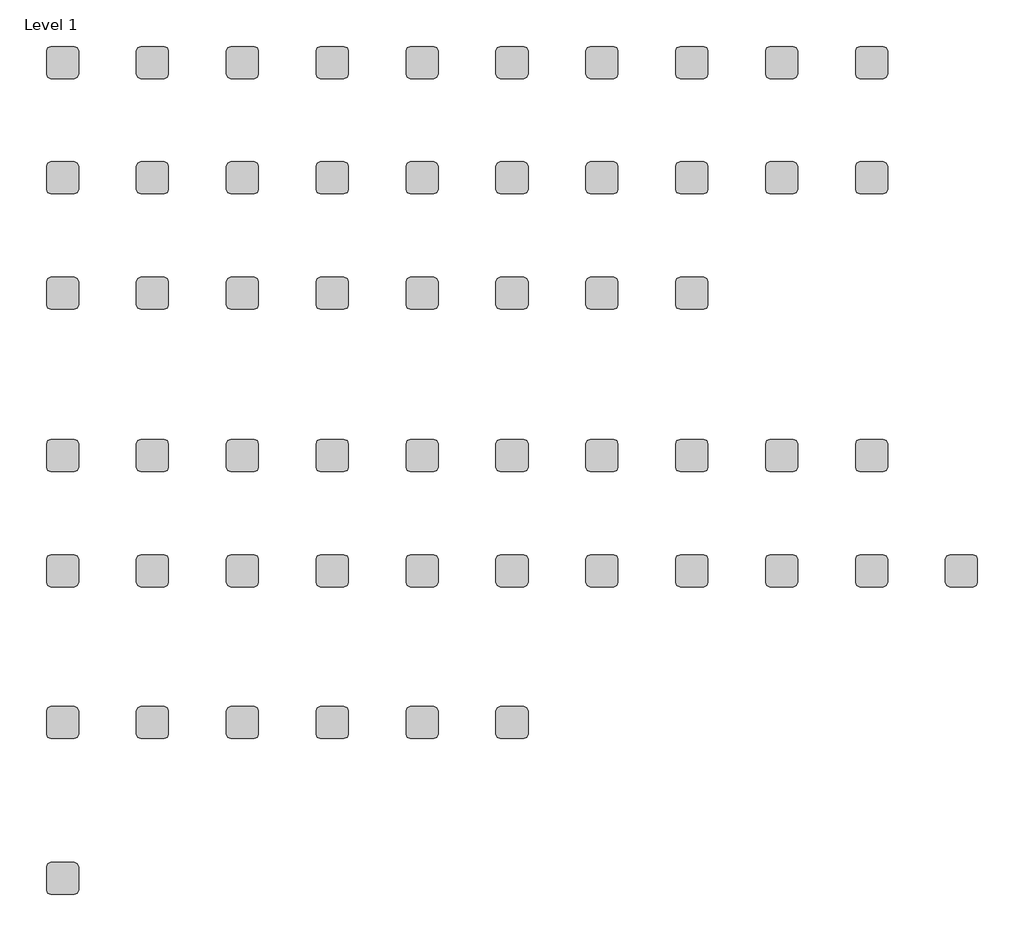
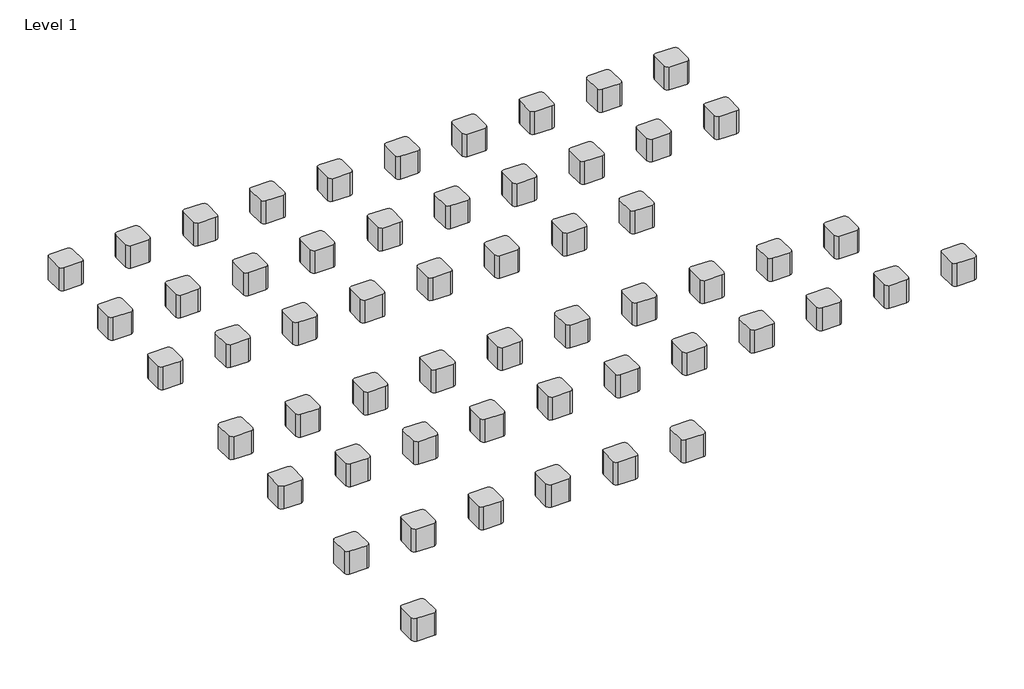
# One storey: 56 proxies.
"""IFC4 building model written with IfcOpenShell, lengths in millimetres."""

import ifcopenshell
import ifcopenshell.guid

model = None  # the IFC model being written
_history = None  # IfcOwnerHistory: only IFC2X3 demands one
_inside = {}  # id of a spatial element -> (the spatial element, [elements in it])
_under = {}  # id of a project, library or spatial element -> (it, [spatial elements below it])
_declared = {}  # id of a project -> (the project, [libraries it declares])
_typed = {}  # id of a type object -> (the type object, [elements of that type])
_made_of = {}  # id of a material, layer set ... -> (it, [elements and type objects made of it])


def new_model(schema):
    """Start an empty IFC model of exactly this schema.

    Asked for "IFC4X3", IfcOpenShell would pick the latest addendum, in which some entities
    have other attributes; the version numbers below select the first issue.
    IFC2X3 requires an IfcOwnerHistory on every rooted entity: one is made here for all.
    """
    global model, _history
    if schema == "IFC4X3":
        model = ifcopenshell.file(schema_version=(4, 3, 0, 0))
    else:
        model = ifcopenshell.file(schema=schema)
    _inside.clear()
    _under.clear()
    _declared.clear()
    _typed.clear()
    _made_of.clear()
    _history = None
    if model.schema == "IFC2X3":
        org = make("IfcOrganization", Name="unknown")
        user = make(
            "IfcPersonAndOrganization",
            ThePerson=make("IfcPerson", FamilyName="unknown"),
            TheOrganization=org,
        )
        app = make(
            "IfcApplication",
            ApplicationDeveloper=org,
            Version="unknown",
            ApplicationFullName="unknown",
            ApplicationIdentifier="unknown",
        )
        _history = make(
            "IfcOwnerHistory",
            OwningUser=user,
            OwningApplication=app,
            ChangeAction="ADDED",
            CreationDate=0,
        )
    return model


def make(cls, **values):
    """One entity of the class cls with the attributes given. An attribute that is None is left unset."""
    return model.create_entity(
        cls, **{name: value for name, value in values.items() if value is not None}
    )


def rooted(cls, **values):
    """An entity with a GlobalId (a new one), such as an element, a storey or a relation."""
    return make(cls, GlobalId=ifcopenshell.guid.new(), OwnerHistory=_history, **values)


def si_unit(unit_type, name, prefix=None):
    """IfcSIUnit, for example si_unit("LENGTHUNIT", "METRE", prefix="MILLI")."""
    return make("IfcSIUnit", UnitType=unit_type, Prefix=prefix, Name=name)


def assignment(units):
    """IfcUnitAssignment: the units of a project."""
    return None if units is None else make("IfcUnitAssignment", Units=units)


def point(xyz):
    """IfcCartesianPoint."""
    return None if xyz is None else make("IfcCartesianPoint", Coordinates=xyz)


def direction(xyz):
    """IfcDirection."""
    return None if xyz is None else make("IfcDirection", DirectionRatios=xyz)


def frame(location, z_axis=None, x_axis=None):
    """IfcAxis2Placement3D, a coordinate frame: its origin and axes. An axis left out is left unset."""
    return make(
        "IfcAxis2Placement3D",
        Location=point(location),
        Axis=direction(z_axis),
        RefDirection=direction(x_axis),
    )


def frame_2d(location, x_axis=None):
    """IfcAxis2Placement2D, a coordinate frame in the plane: its origin and x axis."""
    return make(
        "IfcAxis2Placement2D", Location=point(location), RefDirection=direction(x_axis)
    )


def origin():
    """The frame at (0, 0, 0) with its axes left unset."""
    return frame((0.0, 0.0, 0.0))


def origin_with_axes():
    """The frame at (0, 0, 0) with the z axis (0, 0, 1) and the x axis (1, 0, 0) written out."""
    return frame((0.0, 0.0, 0.0), z_axis=(0.0, 0.0, 1.0), x_axis=(1.0, 0.0, 0.0))


def place(relative_to, where):
    """IfcLocalPlacement: puts the frame where relative to a parent placement (None: the world)."""
    return make(
        "IfcLocalPlacement", PlacementRelTo=relative_to, RelativePlacement=where
    )


def context(
    kind, dimensions, precision=None, world=None, true_north=None, identifier=None
):
    """IfcGeometricRepresentationContext, for example the 3D "Model" context."""
    return make(
        "IfcGeometricRepresentationContext",
        ContextIdentifier=identifier,
        ContextType=kind,
        CoordinateSpaceDimension=dimensions,
        Precision=precision,
        WorldCoordinateSystem=world,
        TrueNorth=true_north,
    )


def project(units=None, contexts=None):
    """IfcProject with its units and contexts."""
    return rooted(
        "IfcProject",
        Name="project",
        RepresentationContexts=contexts,
        UnitsInContext=assignment(units),
    )


def spatial(cls, under=None, at=None, **own):
    """A site, building, storey or space (cls), placed at a placement, below another one or the project."""
    s = rooted(cls, ObjectPlacement=at, **own)
    if under is not None:
        _under.setdefault(under.id(), (under, []))[1].append(s)
    return s


def polyline(points):
    """IfcPolyline through the points."""
    return make("IfcPolyline", Points=[point(p) for p in points])


def circle_curve(where, radius):
    """IfcCircle in the frame where."""
    return make("IfcCircle", Position=where, Radius=radius)


def trimmed(basis, trim1, trim2, sense, master):
    """IfcTrimmedCurve: the piece of a basis curve between two trims."""
    return make(
        "IfcTrimmedCurve",
        BasisCurve=basis,
        Trim1=trim1,
        Trim2=trim2,
        SenseAgreement=sense,
        MasterRepresentation=master,
    )


def segment(curve, same_sense, transition):
    """IfcCompositeCurveSegment."""
    return make(
        "IfcCompositeCurveSegment",
        Transition=transition,
        SameSense=same_sense,
        ParentCurve=curve,
    )


def composite_curve(segments, self_intersect=None):
    """IfcCompositeCurve: segments joined end to end."""
    return make("IfcCompositeCurve", Segments=segments, SelfIntersect=self_intersect)


def outline(outer, holes=None, kind="AREA"):
    """IfcArbitraryClosedProfileDef: a profile drawn as a closed curve; with holes, ...WithVoids."""
    if holes is None:
        return make("IfcArbitraryClosedProfileDef", ProfileType=kind, OuterCurve=outer)
    return make(
        "IfcArbitraryProfileDefWithVoids",
        ProfileType=kind,
        OuterCurve=outer,
        InnerCurves=holes,
    )


def extrude(swept, where, along, depth):
    """IfcExtrudedAreaSolid: the profile swept, set in the frame where, extruded along a direction by depth."""
    return make(
        "IfcExtrudedAreaSolid",
        SweptArea=swept,
        Position=where,
        ExtrudedDirection=direction(along),
        Depth=depth,
    )


def shape(context_of_items, identifier, shape_type, items):
    """IfcShapeRepresentation: the items that make up one representation, for example the "Body"."""
    return make(
        "IfcShapeRepresentation",
        ContextOfItems=context_of_items,
        RepresentationIdentifier=identifier,
        RepresentationType=shape_type,
        Items=items,
    )


def source(mapping_origin, context_of_items, identifier, shape_type, items):
    """IfcRepresentationMap: a shape defined once, which mapped items show again and again."""
    return make(
        "IfcRepresentationMap",
        MappingOrigin=mapping_origin,
        MappedRepresentation=shape(context_of_items, identifier, shape_type, items),
    )


def transform(
    local_origin,
    x_axis=None,
    y_axis=None,
    z_axis=None,
    scale=None,
    scale2=None,
    scale3=None,
    uniform=True,
):
    """IfcCartesianTransformationOperator3D, or its non-uniform kind. x_axis, y_axis, z_axis: its Axis1, 2, 3."""
    if uniform:
        return make(
            "IfcCartesianTransformationOperator3D",
            Axis1=direction(x_axis),
            Axis2=direction(y_axis),
            LocalOrigin=point(local_origin),
            Scale=scale,
            Axis3=direction(z_axis),
        )
    return make(
        "IfcCartesianTransformationOperator3DnonUniform",
        Axis1=direction(x_axis),
        Axis2=direction(y_axis),
        LocalOrigin=point(local_origin),
        Scale=scale,
        Axis3=direction(z_axis),
        Scale2=scale2,
        Scale3=scale3,
    )


def mapped(mapping_source, mapping_target):
    """IfcMappedItem: shows the shape of a source again, moved by a transform."""
    return make(
        "IfcMappedItem", MappingSource=mapping_source, MappingTarget=mapping_target
    )


def made_of(thing, what):
    """Note that an element or type object is made of a material, layer set ...; save() writes the relation."""
    if what is not None:
        _made_of.setdefault(what.id(), (what, []))[1].append(thing)
    return thing


def element(
    cls,
    number,
    at=None,
    inside=None,
    cuts=None,
    type_object=None,
    material=None,
    context=None,
    identifier="Body",
    shape_type=None,
    held_by="IfcProductDefinitionShape",
    body=None,
    shapes=None,
    **own,
):
    """One element of the class cls, such as IfcWall. Its Tag is "e" and its number.

    at: its placement. inside: the storey or other place that contains it. cuts: it is an
    opening in that element (IfcRelVoidsElement). A single representation is given by context,
    identifier, shape_type and body (its items); several are given by shapes. held_by: the class
    of the entity that holds the representations. save() writes the other relations.
    """
    e = rooted(cls, Tag="e%d" % number, ObjectPlacement=at, **own)
    if body is not None:
        shapes = [shape(context, identifier, shape_type, body)]
    if shapes is not None:
        e.Representation = make(held_by, Representations=shapes)
    if inside is not None:
        _inside.setdefault(inside.id(), (inside, []))[1].append(e)
    if cuts is not None:
        rooted(
            "IfcRelVoidsElement", RelatingBuildingElement=cuts, RelatedOpeningElement=e
        )
    if type_object is not None:
        _typed.setdefault(type_object.id(), (type_object, []))[1].append(e)
    return made_of(e, material)


def aggregate(whole, parts):
    """IfcRelAggregates: a whole, such as a stair, and the parts it consists of."""
    return rooted("IfcRelAggregates", RelatingObject=whole, RelatedObjects=parts)


def save(model, path):
    """Write the relations noted so far, then the file.

    IfcRelAggregates (storeys below a building ...), IfcRelContainedInSpatialStructure (elements
    in a storey), IfcRelDefinesByType, IfcRelAssociatesMaterial and IfcRelDeclares: one each for
    every whole, place, type object, material and project.
    """
    for whole, parts in _under.values():
        aggregate(whole, parts)
    for where, things in _inside.values():
        rooted(
            "IfcRelContainedInSpatialStructure",
            RelatedElements=things,
            RelatingStructure=where,
        )
    for kind, things in _typed.values():
        rooted("IfcRelDefinesByType", RelatedObjects=things, RelatingType=kind)
    for what, things in _made_of.values():
        rooted("IfcRelAssociatesMaterial", RelatedObjects=things, RelatingMaterial=what)
    for by, libraries in _declared.values():
        rooted("IfcRelDeclares", RelatingContext=by, RelatedDefinitions=libraries)
    model.write(path)


def material_cube_material_cube_d003602f(model_context):
    return source(origin(), model_context, "Body", "SweptSolid", [
        extrude(outline(composite_curve([segment(trimmed(circle_curve(frame_2d((139.7, 139.7)), 50.8), [point((139.7, 190.5))], [point((190.5, 139.7))], False, "CARTESIAN"), True, "CONTINUOUS"), segment(polyline([(190.5, 139.7), (190.5, -139.7)]), True, "CONTINUOUS"), segment(trimmed(circle_curve(frame_2d((139.7, -139.7)), 50.8), [point((190.5, -139.7))], [point((139.7, -190.5))], False, "CARTESIAN"), True, "CONTINUOUS"), segment(polyline([(139.7, -190.5), (-139.7, -190.5)]), True, "CONTINUOUS"), segment(trimmed(circle_curve(frame_2d((-139.7, -139.7)), 50.8), [point((-139.7, -190.5))], [point((-190.5, -139.7))], False, "CARTESIAN"), True, "CONTINUOUS"), segment(polyline([(-190.5, -139.7), (-190.5, 139.7)]), True, "CONTINUOUS"), segment(trimmed(circle_curve(frame_2d((-139.7, 139.7)), 50.8), [point((-190.5, 139.7))], [point((-139.7, 190.5))], False, "CARTESIAN"), True, "CONTINUOUS"), segment(polyline([(-139.7, 190.5), (139.7, 190.5)]), True, "CONTINUOUS")], self_intersect=False)), origin_with_axes(), (0.0, 0.0, 1.0), 381.0),
    ])


model = new_model("IFC4")

# Units and contexts
model_context = context("Model", 3, world=origin())
ifc_project = project(units=[si_unit("LENGTHUNIT", "METRE", prefix="MILLI")], contexts=[model_context])

# Site, building, storey
site = spatial("IfcSite", under=ifc_project)
building = spatial("IfcBuilding", under=site)
storey = spatial("IfcBuildingStorey", under=building, Name="Level 1", Elevation=0.0)

# Proxies
placement = place(None, origin())
material_cube_material_cube_shape = material_cube_material_cube_d003602f(model_context)
element("IfcBuildingElementProxy", 1, Name="Material Cube : Material Cube", ObjectType="Material Cube : Material Cube", at=placement, inside=storey, context=model_context, shape_type="MappedRepresentation", body=[
    mapped(material_cube_material_cube_shape, transform((-14033.5706411, -2697.3081597, 0.0), x_axis=(1.0, 0.0, 0.0), y_axis=(0.0, 1.0, 0.0), z_axis=(0.0, 0.0, 1.0))),
])
element("IfcBuildingElementProxy", 2, Name="Material Cube : Material Cube", ObjectType="Material Cube : Material Cube", at=placement, inside=storey, context=model_context, shape_type="MappedRepresentation", body=[
    mapped(material_cube_material_cube_shape, transform((-12965.1416718, 7005.4918403, 0.0), x_axis=(1.0, 0.0, 0.0), y_axis=(0.0, 1.0, 0.0), z_axis=(0.0, 0.0, 1.0))),
])
element("IfcBuildingElementProxy", 3, Name="Material Cube : Material Cube", ObjectType="Material Cube : Material Cube", at=placement, inside=storey, context=model_context, shape_type="MappedRepresentation", body=[
    mapped(material_cube_material_cube_shape, transform((-11896.7127025, 7005.4918403, 0.0), x_axis=(1.0, 0.0, 0.0), y_axis=(0.0, 1.0, 0.0), z_axis=(0.0, 0.0, 1.0))),
])
element("IfcBuildingElementProxy", 4, Name="Material Cube : Material Cube", ObjectType="Material Cube : Material Cube", at=placement, inside=storey, context=model_context, shape_type="MappedRepresentation", body=[
    mapped(material_cube_material_cube_shape, transform((-10828.2837331, 7005.4918403, 0.0), x_axis=(1.0, 0.0, 0.0), y_axis=(0.0, 1.0, 0.0), z_axis=(0.0, 0.0, 1.0))),
])
element("IfcBuildingElementProxy", 5, Name="Material Cube : Material Cube", ObjectType="Material Cube : Material Cube", at=placement, inside=storey, context=model_context, shape_type="MappedRepresentation", body=[
    mapped(material_cube_material_cube_shape, transform((-9759.8547638, 7005.4918403, 0.0), x_axis=(1.0, 0.0, 0.0), y_axis=(0.0, 1.0, 0.0), z_axis=(0.0, 0.0, 1.0))),
])
element("IfcBuildingElementProxy", 6, Name="Material Cube : Material Cube", ObjectType="Material Cube : Material Cube", at=placement, inside=storey, context=model_context, shape_type="MappedRepresentation", body=[
    mapped(material_cube_material_cube_shape, transform((-8691.4257944, 7005.4918403, 0.0), x_axis=(1.0, 0.0, 0.0), y_axis=(0.0, 1.0, 0.0), z_axis=(0.0, 0.0, 1.0))),
])
element("IfcBuildingElementProxy", 7, Name="Material Cube : Material Cube", ObjectType="Material Cube : Material Cube", at=placement, inside=storey, context=model_context, shape_type="MappedRepresentation", body=[
    mapped(material_cube_material_cube_shape, transform((-7622.9968251, 7005.4918403, 0.0), x_axis=(1.0, 0.0, 0.0), y_axis=(0.0, 1.0, 0.0), z_axis=(0.0, 0.0, 1.0))),
])
element("IfcBuildingElementProxy", 8, Name="Material Cube : Material Cube", ObjectType="Material Cube : Material Cube", at=placement, inside=storey, context=model_context, shape_type="MappedRepresentation", body=[
    mapped(material_cube_material_cube_shape, transform((-6554.5678557, 7005.4918403, 0.0), x_axis=(1.0, 0.0, 0.0), y_axis=(0.0, 1.0, 0.0), z_axis=(0.0, 0.0, 1.0))),
])
element("IfcBuildingElementProxy", 9, Name="Material Cube : Material Cube", ObjectType="Material Cube : Material Cube", at=placement, inside=storey, context=model_context, shape_type="MappedRepresentation", body=[
    mapped(material_cube_material_cube_shape, transform((-5486.1388864, 7005.4918403, 0.0), x_axis=(1.0, 0.0, 0.0), y_axis=(0.0, 1.0, 0.0), z_axis=(0.0, 0.0, 1.0))),
])
element("IfcBuildingElementProxy", 10, Name="Material Cube : Material Cube", ObjectType="Material Cube : Material Cube", at=placement, inside=storey, context=model_context, shape_type="MappedRepresentation", body=[
    mapped(material_cube_material_cube_shape, transform((-4417.709917, 7005.4918403, 0.0), x_axis=(1.0, 0.0, 0.0), y_axis=(0.0, 1.0, 0.0), z_axis=(0.0, 0.0, 1.0))),
])
element("IfcBuildingElementProxy", 11, Name="Material Cube : Material Cube", ObjectType="Material Cube : Material Cube", at=placement, inside=storey, context=model_context, shape_type="MappedRepresentation", body=[
    mapped(material_cube_material_cube_shape, transform((-14033.5706411, 5633.8918403, 0.0), x_axis=(1.0, 0.0, 0.0), y_axis=(0.0, 1.0, 0.0), z_axis=(0.0, 0.0, 1.0))),
])
element("IfcBuildingElementProxy", 12, Name="Material Cube : Material Cube", ObjectType="Material Cube : Material Cube", at=placement, inside=storey, context=model_context, shape_type="MappedRepresentation", body=[
    mapped(material_cube_material_cube_shape, transform((-12965.1416718, 5633.8918403, 0.0), x_axis=(1.0, 0.0, 0.0), y_axis=(0.0, 1.0, 0.0), z_axis=(0.0, 0.0, 1.0))),
])
element("IfcBuildingElementProxy", 13, Name="Material Cube : Material Cube", ObjectType="Material Cube : Material Cube", at=placement, inside=storey, context=model_context, shape_type="MappedRepresentation", body=[
    mapped(material_cube_material_cube_shape, transform((-11896.7127025, 5633.8918403, 0.0), x_axis=(1.0, 0.0, 0.0), y_axis=(0.0, 1.0, 0.0), z_axis=(0.0, 0.0, 1.0))),
])
element("IfcBuildingElementProxy", 14, Name="Material Cube : Material Cube", ObjectType="Material Cube : Material Cube", at=placement, inside=storey, context=model_context, shape_type="MappedRepresentation", body=[
    mapped(material_cube_material_cube_shape, transform((-10828.2837331, 5633.8918403, 0.0), x_axis=(1.0, 0.0, 0.0), y_axis=(0.0, 1.0, 0.0), z_axis=(0.0, 0.0, 1.0))),
])
element("IfcBuildingElementProxy", 15, Name="Material Cube : Material Cube", ObjectType="Material Cube : Material Cube", at=placement, inside=storey, context=model_context, shape_type="MappedRepresentation", body=[
    mapped(material_cube_material_cube_shape, transform((-9759.8547638, 5633.8918403, 0.0), x_axis=(1.0, 0.0, 0.0), y_axis=(0.0, 1.0, 0.0), z_axis=(0.0, 0.0, 1.0))),
])
element("IfcBuildingElementProxy", 16, Name="Material Cube : Material Cube", ObjectType="Material Cube : Material Cube", at=placement, inside=storey, context=model_context, shape_type="MappedRepresentation", body=[
    mapped(material_cube_material_cube_shape, transform((-14033.5706411, 7005.4918403, 0.0), x_axis=(1.0, 0.0, 0.0), y_axis=(0.0, 1.0, 0.0), z_axis=(0.0, 0.0, 1.0))),
])
element("IfcBuildingElementProxy", 17, Name="Material Cube : Material Cube", ObjectType="Material Cube : Material Cube", at=placement, inside=storey, context=model_context, shape_type="MappedRepresentation", body=[
    mapped(material_cube_material_cube_shape, transform((-8691.4257944, 5633.8918403, 0.0), x_axis=(1.0, 0.0, 0.0), y_axis=(0.0, 1.0, 0.0), z_axis=(0.0, 0.0, 1.0))),
])
element("IfcBuildingElementProxy", 18, Name="Material Cube : Material Cube", ObjectType="Material Cube : Material Cube", at=placement, inside=storey, context=model_context, shape_type="MappedRepresentation", body=[
    mapped(material_cube_material_cube_shape, transform((-7622.9968251, 5633.8918403, 0.0), x_axis=(1.0, 0.0, 0.0), y_axis=(0.0, 1.0, 0.0), z_axis=(0.0, 0.0, 1.0))),
])
element("IfcBuildingElementProxy", 19, Name="Material Cube : Material Cube", ObjectType="Material Cube : Material Cube", at=placement, inside=storey, context=model_context, shape_type="MappedRepresentation", body=[
    mapped(material_cube_material_cube_shape, transform((-6554.5678557, 5633.8918403, 0.0), x_axis=(1.0, 0.0, 0.0), y_axis=(0.0, 1.0, 0.0), z_axis=(0.0, 0.0, 1.0))),
])
element("IfcBuildingElementProxy", 20, Name="Material Cube : Material Cube", ObjectType="Material Cube : Material Cube", at=placement, inside=storey, context=model_context, shape_type="MappedRepresentation", body=[
    mapped(material_cube_material_cube_shape, transform((-5486.1388864, 5633.8918403, 0.0), x_axis=(1.0, 0.0, 0.0), y_axis=(0.0, 1.0, 0.0), z_axis=(0.0, 0.0, 1.0))),
])
element("IfcBuildingElementProxy", 21, Name="Material Cube : Material Cube", ObjectType="Material Cube : Material Cube", at=placement, inside=storey, context=model_context, shape_type="MappedRepresentation", body=[
    mapped(material_cube_material_cube_shape, transform((-4417.709917, 5633.8918403, 0.0), x_axis=(1.0, 0.0, 0.0), y_axis=(0.0, 1.0, 0.0), z_axis=(0.0, 0.0, 1.0))),
])
element("IfcBuildingElementProxy", 22, Name="Material Cube : Material Cube", ObjectType="Material Cube : Material Cube", at=placement, inside=storey, context=model_context, shape_type="MappedRepresentation", body=[
    mapped(material_cube_material_cube_shape, transform((-14033.5706411, 4262.2918403, 0.0), x_axis=(1.0, 0.0, 0.0), y_axis=(0.0, 1.0, 0.0), z_axis=(0.0, 0.0, 1.0))),
])
element("IfcBuildingElementProxy", 23, Name="Material Cube : Material Cube", ObjectType="Material Cube : Material Cube", at=placement, inside=storey, context=model_context, shape_type="MappedRepresentation", body=[
    mapped(material_cube_material_cube_shape, transform((-12965.1416718, 4262.2918403, 0.0), x_axis=(1.0, 0.0, 0.0), y_axis=(0.0, 1.0, 0.0), z_axis=(0.0, 0.0, 1.0))),
])
element("IfcBuildingElementProxy", 24, Name="Material Cube : Material Cube", ObjectType="Material Cube : Material Cube", at=placement, inside=storey, context=model_context, shape_type="MappedRepresentation", body=[
    mapped(material_cube_material_cube_shape, transform((-11896.7127025, 4262.2918403, 0.0), x_axis=(1.0, 0.0, 0.0), y_axis=(0.0, 1.0, 0.0), z_axis=(0.0, 0.0, 1.0))),
])
element("IfcBuildingElementProxy", 25, Name="Material Cube : Material Cube", ObjectType="Material Cube : Material Cube", at=placement, inside=storey, context=model_context, shape_type="MappedRepresentation", body=[
    mapped(material_cube_material_cube_shape, transform((-10828.2837331, 4262.2918403, 0.0), x_axis=(1.0, 0.0, 0.0), y_axis=(0.0, 1.0, 0.0), z_axis=(0.0, 0.0, 1.0))),
])
element("IfcBuildingElementProxy", 26, Name="Material Cube : Material Cube", ObjectType="Material Cube : Material Cube", at=placement, inside=storey, context=model_context, shape_type="MappedRepresentation", body=[
    mapped(material_cube_material_cube_shape, transform((-9759.8547638, 4262.2918403, 0.0), x_axis=(1.0, 0.0, 0.0), y_axis=(0.0, 1.0, 0.0), z_axis=(0.0, 0.0, 1.0))),
])
element("IfcBuildingElementProxy", 27, Name="Material Cube : Material Cube", ObjectType="Material Cube : Material Cube", at=placement, inside=storey, context=model_context, shape_type="MappedRepresentation", body=[
    mapped(material_cube_material_cube_shape, transform((-8691.4257944, 4262.2918403, 0.0), x_axis=(1.0, 0.0, 0.0), y_axis=(0.0, 1.0, 0.0), z_axis=(0.0, 0.0, 1.0))),
])
element("IfcBuildingElementProxy", 28, Name="Material Cube : Material Cube", ObjectType="Material Cube : Material Cube", at=placement, inside=storey, context=model_context, shape_type="MappedRepresentation", body=[
    mapped(material_cube_material_cube_shape, transform((-7622.9968251, 4262.2918403, 0.0), x_axis=(1.0, 0.0, 0.0), y_axis=(0.0, 1.0, 0.0), z_axis=(0.0, 0.0, 1.0))),
])
element("IfcBuildingElementProxy", 29, Name="Material Cube : Material Cube", ObjectType="Material Cube : Material Cube", at=placement, inside=storey, context=model_context, shape_type="MappedRepresentation", body=[
    mapped(material_cube_material_cube_shape, transform((-6554.5678557, 4262.2918403, 0.0), x_axis=(1.0, 0.0, 0.0), y_axis=(0.0, 1.0, 0.0), z_axis=(0.0, 0.0, 1.0))),
])
element("IfcBuildingElementProxy", 30, Name="Material Cube : Material Cube", ObjectType="Material Cube : Material Cube", at=placement, inside=storey, context=model_context, shape_type="MappedRepresentation", body=[
    mapped(material_cube_material_cube_shape, transform((-14033.5706411, 2331.8918403, 0.0), x_axis=(1.0, 0.0, 0.0), y_axis=(0.0, 1.0, 0.0), z_axis=(0.0, 0.0, 1.0))),
])
element("IfcBuildingElementProxy", 31, Name="Material Cube : Material Cube", ObjectType="Material Cube : Material Cube", at=placement, inside=storey, context=model_context, shape_type="MappedRepresentation", body=[
    mapped(material_cube_material_cube_shape, transform((-12965.1416718, 2331.8918403, 0.0), x_axis=(1.0, 0.0, 0.0), y_axis=(0.0, 1.0, 0.0), z_axis=(0.0, 0.0, 1.0))),
])
element("IfcBuildingElementProxy", 32, Name="Material Cube : Material Cube", ObjectType="Material Cube : Material Cube", at=placement, inside=storey, context=model_context, shape_type="MappedRepresentation", body=[
    mapped(material_cube_material_cube_shape, transform((-11896.7127025, 2331.8918403, 0.0), x_axis=(1.0, 0.0, 0.0), y_axis=(0.0, 1.0, 0.0), z_axis=(0.0, 0.0, 1.0))),
])
element("IfcBuildingElementProxy", 33, Name="Material Cube : Material Cube", ObjectType="Material Cube : Material Cube", at=placement, inside=storey, context=model_context, shape_type="MappedRepresentation", body=[
    mapped(material_cube_material_cube_shape, transform((-10828.2837331, 2331.8918403, 0.0), x_axis=(1.0, 0.0, 0.0), y_axis=(0.0, 1.0, 0.0), z_axis=(0.0, 0.0, 1.0))),
])
element("IfcBuildingElementProxy", 34, Name="Material Cube : Material Cube", ObjectType="Material Cube : Material Cube", at=placement, inside=storey, context=model_context, shape_type="MappedRepresentation", body=[
    mapped(material_cube_material_cube_shape, transform((-9759.8547638, 2331.8918403, 0.0), x_axis=(1.0, 0.0, 0.0), y_axis=(0.0, 1.0, 0.0), z_axis=(0.0, 0.0, 1.0))),
])
element("IfcBuildingElementProxy", 35, Name="Material Cube : Material Cube", ObjectType="Material Cube : Material Cube", at=placement, inside=storey, context=model_context, shape_type="MappedRepresentation", body=[
    mapped(material_cube_material_cube_shape, transform((-8691.4257944, 2331.8918403, 0.0), x_axis=(1.0, 0.0, 0.0), y_axis=(0.0, 1.0, 0.0), z_axis=(0.0, 0.0, 1.0))),
])
element("IfcBuildingElementProxy", 36, Name="Material Cube : Material Cube", ObjectType="Material Cube : Material Cube", at=placement, inside=storey, context=model_context, shape_type="MappedRepresentation", body=[
    mapped(material_cube_material_cube_shape, transform((-7622.9968251, 2331.8918403, 0.0), x_axis=(1.0, 0.0, 0.0), y_axis=(0.0, 1.0, 0.0), z_axis=(0.0, 0.0, 1.0))),
])
element("IfcBuildingElementProxy", 37, Name="Material Cube : Material Cube", ObjectType="Material Cube : Material Cube", at=placement, inside=storey, context=model_context, shape_type="MappedRepresentation", body=[
    mapped(material_cube_material_cube_shape, transform((-6554.5678557, 2331.8918403, 0.0), x_axis=(1.0, 0.0, 0.0), y_axis=(0.0, 1.0, 0.0), z_axis=(0.0, 0.0, 1.0))),
])
element("IfcBuildingElementProxy", 38, Name="Material Cube : Material Cube", ObjectType="Material Cube : Material Cube", at=placement, inside=storey, context=model_context, shape_type="MappedRepresentation", body=[
    mapped(material_cube_material_cube_shape, transform((-5486.1388864, 2331.8918403, 0.0), x_axis=(1.0, 0.0, 0.0), y_axis=(0.0, 1.0, 0.0), z_axis=(0.0, 0.0, 1.0))),
])
element("IfcBuildingElementProxy", 39, Name="Material Cube : Material Cube", ObjectType="Material Cube : Material Cube", at=placement, inside=storey, context=model_context, shape_type="MappedRepresentation", body=[
    mapped(material_cube_material_cube_shape, transform((-4417.709917, 2331.8918403, 0.0), x_axis=(1.0, 0.0, 0.0), y_axis=(0.0, 1.0, 0.0), z_axis=(0.0, 0.0, 1.0))),
])
element("IfcBuildingElementProxy", 40, Name="Material Cube : Material Cube", ObjectType="Material Cube : Material Cube", at=placement, inside=storey, context=model_context, shape_type="MappedRepresentation", body=[
    mapped(material_cube_material_cube_shape, transform((-14033.5706411, 960.2918403, 0.0), x_axis=(1.0, 0.0, 0.0), y_axis=(0.0, 1.0, 0.0), z_axis=(0.0, 0.0, 1.0))),
])
element("IfcBuildingElementProxy", 41, Name="Material Cube : Material Cube", ObjectType="Material Cube : Material Cube", at=placement, inside=storey, context=model_context, shape_type="MappedRepresentation", body=[
    mapped(material_cube_material_cube_shape, transform((-12965.1416718, 960.2918403, 0.0), x_axis=(1.0, 0.0, 0.0), y_axis=(0.0, 1.0, 0.0), z_axis=(0.0, 0.0, 1.0))),
])
element("IfcBuildingElementProxy", 42, Name="Material Cube : Material Cube", ObjectType="Material Cube : Material Cube", at=placement, inside=storey, context=model_context, shape_type="MappedRepresentation", body=[
    mapped(material_cube_material_cube_shape, transform((-11896.7127025, 960.2918403, 0.0), x_axis=(1.0, 0.0, 0.0), y_axis=(0.0, 1.0, 0.0), z_axis=(0.0, 0.0, 1.0))),
])
element("IfcBuildingElementProxy", 43, Name="Material Cube : Material Cube", ObjectType="Material Cube : Material Cube", at=placement, inside=storey, context=model_context, shape_type="MappedRepresentation", body=[
    mapped(material_cube_material_cube_shape, transform((-10828.2837331, 960.2918403, 0.0), x_axis=(1.0, 0.0, 0.0), y_axis=(0.0, 1.0, 0.0), z_axis=(0.0, 0.0, 1.0))),
])
element("IfcBuildingElementProxy", 44, Name="Material Cube : Material Cube", ObjectType="Material Cube : Material Cube", at=placement, inside=storey, context=model_context, shape_type="MappedRepresentation", body=[
    mapped(material_cube_material_cube_shape, transform((-9759.8547638, 960.2918403, 0.0), x_axis=(1.0, 0.0, 0.0), y_axis=(0.0, 1.0, 0.0), z_axis=(0.0, 0.0, 1.0))),
])
element("IfcBuildingElementProxy", 45, Name="Material Cube : Material Cube", ObjectType="Material Cube : Material Cube", at=placement, inside=storey, context=model_context, shape_type="MappedRepresentation", body=[
    mapped(material_cube_material_cube_shape, transform((-8691.4257944, 960.2918403, 0.0), x_axis=(1.0, 0.0, 0.0), y_axis=(0.0, 1.0, 0.0), z_axis=(0.0, 0.0, 1.0))),
])
element("IfcBuildingElementProxy", 46, Name="Material Cube : Material Cube", ObjectType="Material Cube : Material Cube", at=placement, inside=storey, context=model_context, shape_type="MappedRepresentation", body=[
    mapped(material_cube_material_cube_shape, transform((-7622.9968251, 960.2918403, 0.0), x_axis=(1.0, 0.0, 0.0), y_axis=(0.0, 1.0, 0.0), z_axis=(0.0, 0.0, 1.0))),
])
element("IfcBuildingElementProxy", 47, Name="Material Cube : Material Cube", ObjectType="Material Cube : Material Cube", at=placement, inside=storey, context=model_context, shape_type="MappedRepresentation", body=[
    mapped(material_cube_material_cube_shape, transform((-6554.5678557, 960.2918403, 0.0), x_axis=(1.0, 0.0, 0.0), y_axis=(0.0, 1.0, 0.0), z_axis=(0.0, 0.0, 1.0))),
])
element("IfcBuildingElementProxy", 48, Name="Material Cube : Material Cube", ObjectType="Material Cube : Material Cube", at=placement, inside=storey, context=model_context, shape_type="MappedRepresentation", body=[
    mapped(material_cube_material_cube_shape, transform((-5486.1388864, 960.2918403, 0.0), x_axis=(1.0, 0.0, 0.0), y_axis=(0.0, 1.0, 0.0), z_axis=(0.0, 0.0, 1.0))),
])
element("IfcBuildingElementProxy", 49, Name="Material Cube : Material Cube", ObjectType="Material Cube : Material Cube", at=placement, inside=storey, context=model_context, shape_type="MappedRepresentation", body=[
    mapped(material_cube_material_cube_shape, transform((-4417.709917, 960.2918403, 0.0), x_axis=(1.0, 0.0, 0.0), y_axis=(0.0, 1.0, 0.0), z_axis=(0.0, 0.0, 1.0))),
])
element("IfcBuildingElementProxy", 50, Name="Material Cube : Material Cube", ObjectType="Material Cube : Material Cube", at=placement, inside=storey, context=model_context, shape_type="MappedRepresentation", body=[
    mapped(material_cube_material_cube_shape, transform((-3349.2809477, 960.2918403, 0.0), x_axis=(1.0, 0.0, 0.0), y_axis=(0.0, 1.0, 0.0), z_axis=(0.0, 0.0, 1.0))),
])
element("IfcBuildingElementProxy", 51, Name="Material Cube : Material Cube", ObjectType="Material Cube : Material Cube", at=placement, inside=storey, context=model_context, shape_type="MappedRepresentation", body=[
    mapped(material_cube_material_cube_shape, transform((-14033.5706411, -843.1081597, 0.0), x_axis=(1.0, 0.0, 0.0), y_axis=(0.0, 1.0, 0.0), z_axis=(0.0, 0.0, 1.0))),
])
element("IfcBuildingElementProxy", 52, Name="Material Cube : Material Cube", ObjectType="Material Cube : Material Cube", at=placement, inside=storey, context=model_context, shape_type="MappedRepresentation", body=[
    mapped(material_cube_material_cube_shape, transform((-12965.1416718, -843.1081597, 0.0), x_axis=(1.0, 0.0, 0.0), y_axis=(0.0, 1.0, 0.0), z_axis=(0.0, 0.0, 1.0))),
])
element("IfcBuildingElementProxy", 53, Name="Material Cube : Material Cube", ObjectType="Material Cube : Material Cube", at=placement, inside=storey, context=model_context, shape_type="MappedRepresentation", body=[
    mapped(material_cube_material_cube_shape, transform((-11896.7127025, -843.1081597, 0.0), x_axis=(1.0, 0.0, 0.0), y_axis=(0.0, 1.0, 0.0), z_axis=(0.0, 0.0, 1.0))),
])
element("IfcBuildingElementProxy", 54, Name="Material Cube : Material Cube", ObjectType="Material Cube : Material Cube", at=placement, inside=storey, context=model_context, shape_type="MappedRepresentation", body=[
    mapped(material_cube_material_cube_shape, transform((-10828.2837331, -843.1081597, 0.0), x_axis=(1.0, 0.0, 0.0), y_axis=(0.0, 1.0, 0.0), z_axis=(0.0, 0.0, 1.0))),
])
element("IfcBuildingElementProxy", 55, Name="Material Cube : Material Cube", ObjectType="Material Cube : Material Cube", at=placement, inside=storey, context=model_context, shape_type="MappedRepresentation", body=[
    mapped(material_cube_material_cube_shape, transform((-9759.8547638, -843.1081597, 0.0), x_axis=(1.0, 0.0, 0.0), y_axis=(0.0, 1.0, 0.0), z_axis=(0.0, 0.0, 1.0))),
])
element("IfcBuildingElementProxy", 56, Name="Material Cube : Material Cube", ObjectType="Material Cube : Material Cube", at=placement, inside=storey, context=model_context, shape_type="MappedRepresentation", body=[
    mapped(material_cube_material_cube_shape, transform((-8691.4257944, -843.1081597, 0.0), x_axis=(1.0, 0.0, 0.0), y_axis=(0.0, 1.0, 0.0), z_axis=(0.0, 0.0, 1.0))),
])

save(model, "model.ifc")
